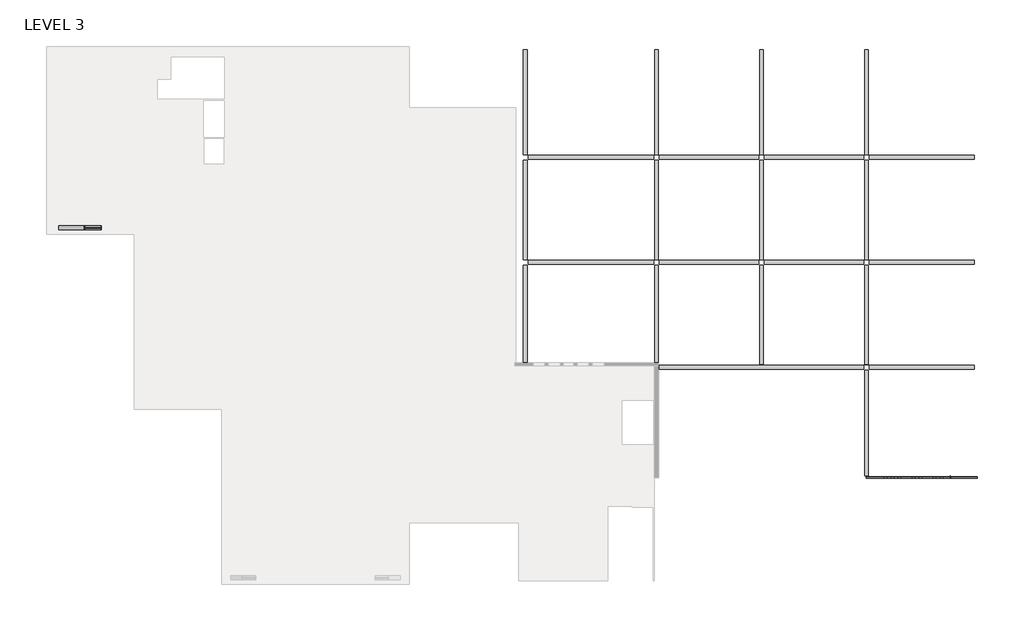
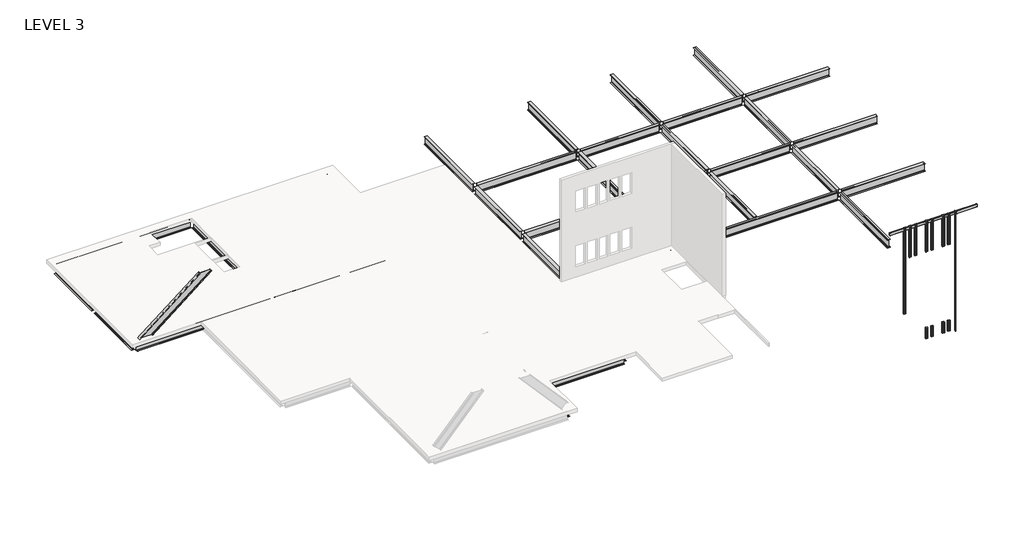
# One storey, part 2 of 2: 45 beams, 14 proxies.
"""IFC4 building model written with IfcOpenShell, lengths in millimetres."""

from ifc_helpers import new_model, si_unit, frame, origin, place, context, project, spatial, polyline, circle_curve, ellipse_curve, transform, mapped, element, save
from ifc_brep_helpers import plane_surface, revolved_surface, advanced_brep
from components import w_wide_flange_w24x68_288c4e1d, w_wide_flange_w24x68_f1038f88, w_wide_flange_w24x68_9aefc99e, w_wide_flange_w24x68_ad03e389, w_wide_flange_w24x68_3a27caef, w_wide_flange_w24x68_d201753e, w_wide_flange_w24x68_4ed4cbdf, w_wide_flange_w24x68_7e912eba, w_wide_flange_w24x68_339b7627, w_wide_flange_w24x68_f968653a, w_wide_flange_w24x68_85a517b7, w_wide_flange_w24x68_6e6fe96a, w_wide_flange_w24x68_b8d53f7a, w_wide_flange_w24x68_6622e0e6, w_wide_flange_w24x68_d4d42626, w_wide_flange_w24x68_22df418c, w_wide_flange_w24x68_4a461c08, w_wide_flange_w24x68_5163ce4e, w_wide_flange_w24x68_52fdc458, w_wide_flange_w24x68_a7e4539d, w_wide_flange_w24x68_66c816e6, generic_models_057657a4, generic_models_8a489a14, generic_models_feac69a9, generic_models_48193b46, generic_models_8dd5a6fb, expansion_joint_expansion_joint_3a477976

model = new_model("IFC4")

# Units and contexts
model_context = context("Model", 3, world=origin())
ifc_project = project(units=[si_unit("LENGTHUNIT", "METRE", prefix="MILLI")], contexts=[model_context])

# Site, building, storey
site = spatial("IfcSite", under=ifc_project)
building = spatial("IfcBuilding", under=site)
storey = spatial("IfcBuildingStorey", under=building, Name="LEVEL 3", Elevation=8534.4)

# Beams
placement = place(None, origin())
element("IfcBeam", 1, ObjectType="W-Wide Flange : W24X68", at=placement, inside=storey, context=model_context, shape_type="AdvancedBrep", body=[
    advanced_brep(
    [(-13168.8463317, 4131.6776318, 12025.2152319), (-13168.8463317, 4046.2701318, 12025.2152319), (-13183.308863, 4023.0291318, 12043.4080676), (-13219.5689837, 4023.0291318, 12089.0207201), (-13219.5689837, 4012.4881318, 12089.0207201), (-13183.308863, 4012.4881318, 12043.4080676), (-13168.8463317, 3989.2471318, 12025.2152319), (-13168.8463317, 3903.8396318, 12025.2152319), (-13159.5997953, 3903.8396318, 12013.5837468), (-13159.5997953, 4131.6776318, 12013.5837468), (-17690.1020761, 4131.6776318, 8431.0090215), (-17690.1020761, 4046.2701318, 8431.0090215), (-17727.4499005, 4023.0291318, 8431.0090215), (-13970.8493863, 4023.0291318, 12089.0207201), (-18572.3678961, 4023.0291318, 8431.0090215), (-14008.1972107, 4046.2701318, 12089.0207201), (-18609.7157205, 4046.2701318, 8431.0090215), (-14008.1972107, 4131.6776318, 12089.0207201), (-18609.7157205, 4131.6776318, 8431.0090215), (-14032.075328, 4131.6776318, 12089.0207201), (-18633.5938378, 4131.6776318, 8431.0090215), (-14032.075328, 3903.8396318, 12089.0207201), (-18633.5938378, 3903.8396318, 8431.0090215), (-14008.1972107, 3903.8396318, 12089.0207201), (-18609.7157205, 3903.8396318, 8431.0090215), (-14008.1972107, 3989.2471318, 12089.0207201), (-18609.7157205, 3989.2471318, 8431.0090215), (-13970.8493863, 4012.4881318, 12089.0207201), (-18572.3678961, 4012.4881318, 8431.0090215), (-17727.4499005, 4012.4881318, 8431.0090215), (-17690.1020761, 3989.2471318, 8431.0090215), (-17690.1020761, 3903.8396318, 8431.0090215), (-17666.2239588, 3903.8396318, 8431.0090215), (-17666.2239588, 4131.6776318, 8431.0090215)],
    [
        (0, 1),
        (1, 2, circle_curve(frame((-13183.308863, 4046.2701318, 12043.4080676), z_axis=(-0.7827905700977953, 0.0, -0.6222852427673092), x_axis=(0.0, -1.0, 0.0)), 23.241)),
        (2, 3),
        (3, 4),
        (4, 5),
        (5, 6, circle_curve(frame((-13183.308863, 3989.2471318, 12043.4080676), z_axis=(-0.7827905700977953, 0.0, -0.6222852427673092), x_axis=(0.6222852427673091, 0.0, -0.7827905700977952)), 23.241)),
        (6, 7),
        (7, 8),
        (8, 9),
        (9, 0),
        (0, 10),
        (10, 11),
        (11, 1),
        (11, 12, ellipse_curve(frame((-17727.4499005, 4046.2701318, 8431.0090215), z_axis=(0.0, 0.0, -1.0), x_axis=(-1.0, 0.0, 0.0)), 37.3478244, 23.241)),
        (12, 2),
        (13, 3),
        (12, 14),
        (14, 13),
        (15, 13, ellipse_curve(frame((-13970.8493863, 4046.2701318, 12089.0207201), z_axis=(0.0, 0.0, 1.0), x_axis=(-1.0, 0.0, 0.0)), 37.3478244, 23.241)),
        (14, 16, ellipse_curve(frame((-18572.3678961, 4046.2701318, 8431.0090215), z_axis=(0.0, 0.0, -1.0), x_axis=(-1.0, 0.0, 0.0)), 37.3478244, 23.241)),
        (16, 15),
        (17, 15),
        (16, 18),
        (18, 17),
        (19, 17),
        (18, 20),
        (20, 19),
        (21, 19),
        (20, 22),
        (22, 21),
        (23, 21),
        (22, 24),
        (24, 23),
        (25, 23),
        (24, 26),
        (26, 25),
        (27, 25, ellipse_curve(frame((-13970.8493863, 3989.2471318, 12089.0207201), z_axis=(0.0, 0.0, 1.0), x_axis=(-1.0, 0.0, 0.0)), 37.3478244, 23.241)),
        (26, 28, ellipse_curve(frame((-18572.3678961, 3989.2471318, 8431.0090215), z_axis=(0.0, 0.0, -1.0), x_axis=(-1.0, 0.0, 0.0)), 37.3478244, 23.241)),
        (28, 27),
        (4, 27),
        (28, 29),
        (29, 5),
        (29, 30, ellipse_curve(frame((-17727.4499005, 3989.2471318, 8431.0090215), z_axis=(0.0, 0.0, -1.0), x_axis=(-1.0, 0.0, 0.0)), 37.3478244, 23.241)),
        (30, 6),
        (30, 31),
        (31, 7),
        (31, 32),
        (32, 8),
        (32, 33),
        (33, 9),
        (33, 10),
    ],
    [
        plane_surface(frame((-13346.9014305, 4017.7586318, 12249.1958805), z_axis=(0.7827905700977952, 0.0, 0.6222852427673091), x_axis=(-0.6222852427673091, 0.0, 0.7827905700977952))),
        plane_surface(frame((-13168.8463317, 4088.9738818, 12025.2152319), z_axis=(-0.6222852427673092, 0.0, 0.7827905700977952), x_axis=(0.0, -1.0, 0.0))),
        revolved_surface(polyline([(-17750.335193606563, 4023.0291318, 8412.816185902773), (-13183.308863, 4023.0291318, 12043.4080676)]), (-13183.308863, 4046.2701318, 12043.4080676), (-0.7827905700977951, 0.0, -0.6222852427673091)),
        plane_surface(frame((-13346.9014305, 4023.0291318, 12249.1958805), z_axis=(0.0, 1.0000000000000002, 0.0), x_axis=(-0.6222852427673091, 0.0, 0.7827905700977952))),
        revolved_surface(polyline([(-18609.715720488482, 4046.2701318, 8431.00902148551), (-13962.426624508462, 4046.2701318, 12125.40639132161)]), (-13510.4939979, 4046.2701318, 12454.9836935), (-0.7827905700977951, 0.0, -0.6222852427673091)),
        plane_surface(frame((-13524.9565293, 4088.9738818, 12473.1765292), z_axis=(0.6222852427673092, 0.0, -0.7827905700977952), x_axis=(0.0, 1.0, 0.0))),
        plane_surface(frame((-13529.5797975, 4131.6776318, 12478.9922717), z_axis=(0.0, 1.0000000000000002, 0.0), x_axis=(-0.6222852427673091, 0.0, 0.7827905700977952))),
        plane_surface(frame((-13534.2030657, 4017.7586318, 12484.8080142), z_axis=(-0.6222852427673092, 0.0, 0.7827905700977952), x_axis=(0.0, -1.0, 0.0))),
        plane_surface(frame((-13529.5797975, 3903.8396318, 12478.9922717), z_axis=(0.0, -1.0000000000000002, 0.0), x_axis=(0.6222852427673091, 0.0, -0.7827905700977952))),
        plane_surface(frame((-13524.9565293, 3946.5433818, 12473.1765292), z_axis=(0.6222852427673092, 0.0, -0.7827905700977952), x_axis=(0.0, 1.0, 0.0))),
        revolved_surface(polyline([(-18595.253189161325, 4012.4881318, 8412.816185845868), (-13947.964093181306, 4012.4881318, 12107.213555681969)]), (-13510.4939979, 3989.2471318, 12454.9836935), (-0.7827905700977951, 0.0, -0.6222852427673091)),
        plane_surface(frame((-13346.9014305, 4012.4881318, 12249.1958805), z_axis=(0.0, -1.0000000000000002, 0.0), x_axis=(0.6222852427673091, 0.0, -0.7827905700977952))),
        revolved_surface(polyline([(-17735.872662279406, 3989.2471318, 8394.623350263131), (-13168.846331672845, 3989.2471318, 12025.215231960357)]), (-13183.308863, 3989.2471318, 12043.4080676), (-0.7827905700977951, 0.0, -0.6222852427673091)),
        plane_surface(frame((-13168.8463317, 3946.5433818, 12025.2152319), z_axis=(-0.6222852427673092, 0.0, 0.7827905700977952), x_axis=(0.0, -1.0, 0.0))),
        plane_surface(frame((-13164.2230635, 3903.8396318, 12019.3994894), z_axis=(0.0, -1.0000000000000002, 0.0), x_axis=(0.6222852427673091, 0.0, -0.7827905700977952))),
        plane_surface(frame((-13159.5997953, 4017.7586318, 12013.5837468), z_axis=(0.6222852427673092, 0.0, -0.7827905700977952), x_axis=(0.0, 1.0, 0.0))),
        plane_surface(frame((-13164.2230635, 4131.6776318, 12019.3994894), z_axis=(0.0, 1.0000000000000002, 0.0), x_axis=(-0.6222852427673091, 0.0, 0.7827905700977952))),
        plane_surface(frame((-14230.2831515, -2738.6413682, 12089.0207201), z_axis=(0.0, 0.0, 1.0), x_axis=(0.0, 1.0, 0.0))),
        plane_surface(frame((-17267.6578386, -2738.6413682, 8431.0090215), z_axis=(0.0, 0.0, -1.0), x_axis=(0.0, 1.0, 0.0))),
    ],
    [
        (0, [[1, 2, 3, 4, 5, 6, 7, 8, 9, 10]]),
        (1, [[-1, 11, 12, 13]]),
        (2, [[-2, -13, 14, 15]]),
        (3, [[16, -3, -15, 17, 18]]),
        (4, [[19, -18, 20, 21]]),
        (5, [[22, -21, 23, 24]]),
        (6, [[25, -24, 26, 27]]),
        (7, [[28, -27, 29, 30]]),
        (8, [[31, -30, 32, 33]]),
        (9, [[34, -33, 35, 36]]),
        (10, [[37, -36, 38, 39]]),
        (11, [[40, -39, 41, 42, -5]]),
        (12, [[-6, -42, 43, 44]]),
        (13, [[-7, -44, 45, 46]]),
        (14, [[-8, -46, 47, 48]]),
        (15, [[-9, -48, 49, 50]]),
        (16, [[-10, -50, 51, -11]]),
        (17, [[-16, -19, -22, -25, -28, -31, -34, -37, -40, -4]]),
        (18, [[-12, -51, -49, -47, -45, -43, -41, -38, -35, -32, -29, -26, -23, -20, -17, -14]]),
    ],
),
])
w_wide_flange_w24x68_shape = w_wide_flange_w24x68_288c4e1d(model_context)
element("IfcBeam", 2, ObjectType="W-Wide Flange : W24X68", at=placement, inside=storey, context=model_context, shape_type="MappedRepresentation", body=[
    mapped(w_wide_flange_w24x68_shape, transform((-18823.0492735, 11637.7586318, 7979.41), x_axis=(0.0, -1.0, 0.0), y_axis=(1.0, 0.0, 0.0), z_axis=(0.0, 0.0, 1.0))),
])
w_wide_flange_w24x68_2_shape = w_wide_flange_w24x68_f1038f88(model_context)
element("IfcBeam", 3, ObjectType="W-Wide Flange : W24X68", at=placement, inside=storey, context=model_context, shape_type="MappedRepresentation", body=[
    mapped(w_wide_flange_w24x68_2_shape, transform((-13743.0492735, 14177.7586318, 7979.41), x_axis=(1.0, 0.0, 0.0), y_axis=(0.0, 1.0, 0.0), z_axis=(0.0, 0.0, 1.0))),
])
element("IfcBeam", 4, ObjectType="W-Wide Flange : W24X68", at=placement, inside=storey, context=model_context, shape_type="MappedRepresentation", body=[
    mapped(w_wide_flange_w24x68_2_shape, transform((-3583.0492735, 14177.7586318, 7979.41), x_axis=(-1.0, 0.0, 0.0), y_axis=(0.0, -1.0, 0.0), z_axis=(0.0, 0.0, 1.0))),
])
element("IfcBeam", 5, ObjectType="W-Wide Flange : W24X68", at=placement, inside=storey, context=model_context, shape_type="MappedRepresentation", body=[
    mapped(w_wide_flange_w24x68_2_shape, transform((-13743.0492735, 4017.7586318, 7979.41), x_axis=(1.0, 0.0, 0.0), y_axis=(0.0, 1.0, 0.0), z_axis=(0.0, 0.0, 1.0))),
])
element("IfcBeam", 6, ObjectType="W-Wide Flange : W24X68", at=placement, inside=storey, context=model_context, shape_type="MappedRepresentation", body=[
    mapped(w_wide_flange_w24x68_2_shape, transform((-3583.0492735, 4017.7586318, 7979.41), x_axis=(1.0, 0.0, 0.0), y_axis=(0.0, 1.0, 0.0), z_axis=(0.0, 0.0, 1.0))),
])
w_wide_flange_w24x68_3_shape = w_wide_flange_w24x68_9aefc99e(model_context)
element("IfcBeam", 7, ObjectType="W-Wide Flange : W24X68", at=placement, inside=storey, context=model_context, shape_type="MappedRepresentation", body=[
    mapped(w_wide_flange_w24x68_3_shape, transform((-18823.0492735, 6557.7586318, 7979.41), x_axis=(0.0, 1.0, 0.0), y_axis=(-1.0, 0.0, 0.0), z_axis=(0.0, 0.0, 1.0))),
])
w_wide_flange_w24x68_4_shape = w_wide_flange_w24x68_ad03e389(model_context)
element("IfcBeam", 8, ObjectType="W-Wide Flange : W24X68", at=placement, inside=storey, context=model_context, shape_type="MappedRepresentation", body=[
    mapped(w_wide_flange_w24x68_4_shape, transform((-8663.0492735, 9097.7586318, 7979.41), x_axis=(0.0, 1.0, 0.0), y_axis=(-1.0, 0.0, 0.0), z_axis=(0.0, 0.0, 1.0))),
])
w_wide_flange_w24x68_5_shape = w_wide_flange_w24x68_3a27caef(model_context)
element("IfcBeam", 9, ObjectType="W-Wide Flange : W24X68", at=placement, inside=storey, context=model_context, shape_type="MappedRepresentation", body=[
    mapped(w_wide_flange_w24x68_5_shape, transform((1496.9507265, -14524.2413682, 7979.41), x_axis=(0.0, 1.0, 0.0), y_axis=(-1.0, 0.0, 0.0), z_axis=(0.0, 0.0, 1.0))),
])
element("IfcBeam", 10, ObjectType="W-Wide Flange : W24X68", at=placement, inside=storey, context=model_context, shape_type="MappedRepresentation", body=[
    mapped(w_wide_flange_w24x68_5_shape, transform((1496.9507265, 12399.7586318, 7979.41), x_axis=(0.0, -1.0, 0.0), y_axis=(1.0, 0.0, 0.0), z_axis=(0.0, 0.0, 1.0))),
])
w_wide_flange_w24x68_6_shape = w_wide_flange_w24x68_d201753e(model_context)
element("IfcBeam", 11, ObjectType="W-Wide Flange : W24X68", at=placement, inside=storey, context=model_context, shape_type="MappedRepresentation", body=[
    mapped(w_wide_flange_w24x68_6_shape, transform((4595.7507265, -12746.2413682, 7979.41), x_axis=(-1.0, 0.0, 0.0), y_axis=(0.0, -1.0, 0.0), z_axis=(0.0, 0.0, 1.0))),
])
element("IfcBeam", 12, ObjectType="W-Wide Flange : W24X68", at=placement, inside=storey, context=model_context, shape_type="MappedRepresentation", body=[
    mapped(w_wide_flange_w24x68_6_shape, transform((4595.7507265, 10621.7586318, 7979.41), x_axis=(1.0, 0.0, 0.0), y_axis=(0.0, 1.0, 0.0), z_axis=(0.0, 0.0, 1.0))),
])
w_wide_flange_w24x68_7_shape = w_wide_flange_w24x68_4ed4cbdf(model_context)
element("IfcBeam", 13, ObjectType="W-Wide Flange : W24X68", at=placement, inside=storey, context=model_context, shape_type="MappedRepresentation", body=[
    mapped(w_wide_flange_w24x68_7_shape, transform((7694.5507265, -9444.2413682, 7979.41), x_axis=(0.0, -1.0, 0.0), y_axis=(1.0, 0.0, 0.0), z_axis=(0.0, 0.0, 1.0))),
])
element("IfcBeam", 14, ObjectType="W-Wide Flange : W24X68", at=placement, inside=storey, context=model_context, shape_type="MappedRepresentation", body=[
    mapped(w_wide_flange_w24x68_7_shape, transform((1496.9507265, 7319.7586318, 7979.41), x_axis=(0.0, 1.0, 0.0), y_axis=(-1.0, 0.0, 0.0), z_axis=(0.0, 0.0, 1.0))),
])
w_wide_flange_w24x68_8_shape = w_wide_flange_w24x68_7e912eba(model_context)
element("IfcBeam", 15, ObjectType="W-Wide Flange : W24X68", at=placement, inside=storey, context=model_context, shape_type="MappedRepresentation", body=[
    mapped(w_wide_flange_w24x68_8_shape, transform((11885.5507265, -4083.2538682, 7979.41), x_axis=(-1.0, 0.0, 0.0), y_axis=(0.0, -1.0, 0.0), z_axis=(0.0, 0.0, 1.0))),
])
element("IfcBeam", 16, ObjectType="W-Wide Flange : W24X68", at=placement, inside=storey, context=model_context, shape_type="MappedRepresentation", body=[
    mapped(w_wide_flange_w24x68_6_shape, transform((4595.7507265, -6142.2413682, 7979.41), x_axis=(1.0, 0.0, 0.0), y_axis=(0.0, 1.0, 0.0), z_axis=(0.0, 0.0, 1.0))),
])
w_wide_flange_w24x68_9_shape = w_wide_flange_w24x68_339b7627(model_context)
element("IfcBeam", 17, ObjectType="W-Wide Flange : W24X68", at=placement, inside=storey, context=model_context, shape_type="MappedRepresentation", body=[
    mapped(w_wide_flange_w24x68_9_shape, transform((4613.3908052, 4017.7586318, 7979.41), x_axis=(-1.0, 0.0, 0.0), y_axis=(0.0, -1.0, 0.0), z_axis=(0.0, 0.0, 1.0))),
])
w_wide_flange_w24x68_10_shape = w_wide_flange_w24x68_f968653a(model_context)
element("IfcBeam", 18, ObjectType="W-Wide Flange : W24X68", at=placement, inside=storey, context=model_context, shape_type="MappedRepresentation", body=[
    mapped(w_wide_flange_w24x68_10_shape, transform((7694.5507265, -1064.4380093, 7979.41), x_axis=(0.0, 1.0, 0.0), y_axis=(-1.0, 0.0, 0.0), z_axis=(0.0, 0.0, 1.0))),
])
w_wide_flange_w24x68_11_shape = w_wide_flange_w24x68_85a517b7(model_context)
element("IfcBeam", 19, ObjectType="W-Wide Flange : W24X68", at=placement, inside=storey, context=model_context, shape_type="MappedRepresentation", body=[
    mapped(w_wide_flange_w24x68_11_shape, transform((1496.9507265, -1067.0038682, 7979.41), x_axis=(0.0, 1.0, 0.0), y_axis=(-1.0, 0.0, 0.0), z_axis=(0.0, 0.0, 1.0))),
])
w_wide_flange_w24x68_12_shape = w_wide_flange_w24x68_6e6fe96a(model_context)
element("IfcBeam", 20, ObjectType="W-Wide Flange : W24X68", at=placement, inside=storey, context=model_context, shape_type="MappedRepresentation", body=[
    mapped(w_wide_flange_w24x68_12_shape, transform((7694.5507265, 7317.5619907, 7979.41), x_axis=(0.0, 1.0, 0.0), y_axis=(-1.0, 0.0, 0.0), z_axis=(0.0, 0.0, 1.0))),
])
w_wide_flange_w24x68_13_shape = w_wide_flange_w24x68_b8d53f7a(model_context)
element("IfcBeam", 21, ObjectType="W-Wide Flange : W24X68", at=placement, inside=storey, context=model_context, shape_type="MappedRepresentation", body=[
    mapped(w_wide_flange_w24x68_13_shape, transform((1496.9507265, -9449.0038682, 7979.41), x_axis=(0.0, 1.0, 0.0), y_axis=(-1.0, 0.0, 0.0), z_axis=(0.0, 0.0, 1.0))),
])
w_wide_flange_w24x68_14_shape = w_wide_flange_w24x68_6622e0e6(model_context)
element("IfcBeam", 22, ObjectType="W-Wide Flange : W24X68", at=placement, inside=storey, context=model_context, shape_type="MappedRepresentation", body=[
    mapped(w_wide_flange_w24x68_14_shape, transform((8608.9507265, -7138.3976182, 7979.41), x_axis=(0.0, 1.0, 0.0), y_axis=(-1.0, 0.0, 0.0), z_axis=(0.0, 0.0, 1.0))),
])
w_wide_flange_w24x68_15_shape = w_wide_flange_w24x68_d4d42626(model_context)
element("IfcBeam", 23, ObjectType="W-Wide Flange : W24X68", at=placement, inside=storey, context=model_context, shape_type="MappedRepresentation", body=[
    mapped(w_wide_flange_w24x68_15_shape, transform((22324.9507265, -4083.2538682, 8233.41), x_axis=(1.0, 0.0, 0.0), y_axis=(0.0, 1.0, 0.0), z_axis=(0.0, 0.0, 1.0))),
])
w_wide_flange_w24x68_16_shape = w_wide_flange_w24x68_22df418c(model_context)
element("IfcBeam", 24, ObjectType="W-Wide Flange : W24X68", at=placement, inside=storey, context=model_context, shape_type="MappedRepresentation", body=[
    mapped(w_wide_flange_w24x68_16_shape, transform((8608.9507265, -1035.2538682, 8233.41), x_axis=(0.0, -1.0, 0.0), y_axis=(1.0, 0.0, 0.0), z_axis=(0.0, 0.0, 1.0))),
])
element("IfcBeam", 25, ObjectType="W-Wide Flange : W24X68", at=placement, inside=storey, context=model_context, shape_type="MappedRepresentation", body=[
    mapped(w_wide_flange_w24x68_16_shape, transform((8608.9507265, 5060.7461318, 8233.41), x_axis=(0.0, -1.0, 0.0), y_axis=(1.0, 0.0, 0.0), z_axis=(0.0, 0.0, 1.0))),
])
element("IfcBeam", 26, ObjectType="W-Wide Flange : W24X68", at=placement, inside=storey, context=model_context, shape_type="MappedRepresentation", body=[
    mapped(w_wide_flange_w24x68_16_shape, transform((16228.9507265, 5060.7461318, 8233.41), x_axis=(0.0, -1.0, 0.0), y_axis=(1.0, 0.0, 0.0), z_axis=(0.0, 0.0, 1.0))),
])
element("IfcBeam", 27, ObjectType="W-Wide Flange : W24X68", at=placement, inside=storey, context=model_context, shape_type="MappedRepresentation", body=[
    mapped(w_wide_flange_w24x68_16_shape, transform((16228.9507265, -1035.2538682, 8233.41), x_axis=(0.0, -1.0, 0.0), y_axis=(1.0, 0.0, 0.0), z_axis=(0.0, 0.0, 1.0))),
])
element("IfcBeam", 28, ObjectType="W-Wide Flange : W24X68", at=placement, inside=storey, context=model_context, shape_type="MappedRepresentation", body=[
    mapped(w_wide_flange_w24x68_16_shape, transform((22324.9507265, 5060.7461318, 8233.41), x_axis=(0.0, -1.0, 0.0), y_axis=(1.0, 0.0, 0.0), z_axis=(0.0, 0.0, 1.0))),
])
element("IfcBeam", 29, ObjectType="W-Wide Flange : W24X68", at=placement, inside=storey, context=model_context, shape_type="MappedRepresentation", body=[
    mapped(w_wide_flange_w24x68_16_shape, transform((22324.9507265, -1035.2538682, 8233.41), x_axis=(0.0, -1.0, 0.0), y_axis=(1.0, 0.0, 0.0), z_axis=(0.0, 0.0, 1.0))),
])
element("IfcBeam", 30, ObjectType="W-Wide Flange : W24X68", at=placement, inside=storey, context=model_context, shape_type="MappedRepresentation", body=[
    mapped(w_wide_flange_w24x68_16_shape, transform((28420.9507265, 5060.7461318, 8233.41), x_axis=(0.0, 1.0, 0.0), y_axis=(-1.0, 0.0, 0.0), z_axis=(0.0, 0.0, 1.0))),
])
element("IfcBeam", 31, ObjectType="W-Wide Flange : W24X68", at=placement, inside=storey, context=model_context, shape_type="MappedRepresentation", body=[
    mapped(w_wide_flange_w24x68_16_shape, transform((28420.9507265, -1035.2538682, 8233.41), x_axis=(0.0, -1.0, 0.0), y_axis=(1.0, 0.0, 0.0), z_axis=(0.0, 0.0, 1.0))),
])
w_wide_flange_w24x68_17_shape = w_wide_flange_w24x68_4a461c08(model_context)
element("IfcBeam", 32, ObjectType="W-Wide Flange : W24X68", at=placement, inside=storey, context=model_context, shape_type="MappedRepresentation", body=[
    mapped(w_wide_flange_w24x68_17_shape, transform((12418.9507265, 8108.7461318, 8233.41), x_axis=(1.0, 0.0, 0.0), y_axis=(0.0, 1.0, 0.0), z_axis=(0.0, 0.0, 1.0))),
])
element("IfcBeam", 33, ObjectType="W-Wide Flange : W24X68", at=placement, inside=storey, context=model_context, shape_type="MappedRepresentation", body=[
    mapped(w_wide_flange_w24x68_17_shape, transform((12418.9507265, 2012.7461318, 8233.41), x_axis=(1.0, 0.0, 0.0), y_axis=(0.0, 1.0, 0.0), z_axis=(0.0, 0.0, 1.0))),
])
w_wide_flange_w24x68_18_shape = w_wide_flange_w24x68_5163ce4e(model_context)
element("IfcBeam", 34, ObjectType="W-Wide Flange : W24X68", at=placement, inside=storey, context=model_context, shape_type="MappedRepresentation", body=[
    mapped(w_wide_flange_w24x68_18_shape, transform((19276.9507265, 8108.7461318, 8233.41), x_axis=(-1.0, 0.0, 0.0), y_axis=(0.0, -1.0, 0.0), z_axis=(0.0, 0.0, 1.0))),
])
element("IfcBeam", 35, ObjectType="W-Wide Flange : W24X68", at=placement, inside=storey, context=model_context, shape_type="MappedRepresentation", body=[
    mapped(w_wide_flange_w24x68_18_shape, transform((25372.9507265, 8108.7461318, 8233.41), x_axis=(-1.0, 0.0, 0.0), y_axis=(0.0, -1.0, 0.0), z_axis=(0.0, 0.0, 1.0))),
])
element("IfcBeam", 36, ObjectType="W-Wide Flange : W24X68", at=placement, inside=storey, context=model_context, shape_type="MappedRepresentation", body=[
    mapped(w_wide_flange_w24x68_18_shape, transform((19276.9507265, 2012.7461318, 8233.41), x_axis=(-1.0, 0.0, 0.0), y_axis=(0.0, -1.0, 0.0), z_axis=(0.0, 0.0, 1.0))),
])
element("IfcBeam", 37, ObjectType="W-Wide Flange : W24X68", at=placement, inside=storey, context=model_context, shape_type="MappedRepresentation", body=[
    mapped(w_wide_flange_w24x68_18_shape, transform((25372.9507265, 2012.7461318, 8233.41), x_axis=(-1.0, 0.0, 0.0), y_axis=(0.0, -1.0, 0.0), z_axis=(0.0, 0.0, 1.0))),
])
w_wide_flange_w24x68_19_shape = w_wide_flange_w24x68_52fdc458(model_context)
element("IfcBeam", 38, ObjectType="W-Wide Flange : W24X68", at=placement, inside=storey, context=model_context, shape_type="MappedRepresentation", body=[
    mapped(w_wide_flange_w24x68_19_shape, transform((31604.7837939, -4083.2538682, 8233.41), x_axis=(-1.0, 0.0, 0.0), y_axis=(0.0, -1.0, 0.0), z_axis=(0.0, 0.0, 1.0))),
])
element("IfcBeam", 39, ObjectType="W-Wide Flange : W24X68", at=placement, inside=storey, context=model_context, shape_type="MappedRepresentation", body=[
    mapped(w_wide_flange_w24x68_19_shape, transform((31604.7837939, 8108.7461318, 8233.41), x_axis=(-1.0, 0.0, 0.0), y_axis=(0.0, -1.0, 0.0), z_axis=(0.0, 0.0, 1.0))),
])
element("IfcBeam", 40, ObjectType="W-Wide Flange : W24X68", at=placement, inside=storey, context=model_context, shape_type="MappedRepresentation", body=[
    mapped(w_wide_flange_w24x68_19_shape, transform((31604.7837939, 2012.7461318, 8233.41), x_axis=(-1.0, 0.0, 0.0), y_axis=(0.0, -1.0, 0.0), z_axis=(0.0, 0.0, 1.0))),
])
w_wide_flange_w24x68_20_shape = w_wide_flange_w24x68_a7e4539d(model_context)
element("IfcBeam", 41, ObjectType="W-Wide Flange : W24X68", at=placement, inside=storey, context=model_context, shape_type="MappedRepresentation", body=[
    mapped(w_wide_flange_w24x68_20_shape, transform((28420.9507265, -7280.4788682, 8233.41), x_axis=(0.0, 1.0, 0.0), y_axis=(-1.0, 0.0, 0.0), z_axis=(0.0, 0.0, 1.0))),
])
w_wide_flange_w24x68_21_shape = w_wide_flange_w24x68_66c816e6(model_context)
element("IfcBeam", 42, ObjectType="W-Wide Flange : W24X68", at=placement, inside=storey, context=model_context, shape_type="MappedRepresentation", body=[
    mapped(w_wide_flange_w24x68_21_shape, transform((8608.9507265, 11293.2711318, 8233.41), x_axis=(0.0, -1.0, 0.0), y_axis=(1.0, 0.0, 0.0), z_axis=(0.0, 0.0, 1.0))),
])
element("IfcBeam", 43, ObjectType="W-Wide Flange : W24X68", at=placement, inside=storey, context=model_context, shape_type="MappedRepresentation", body=[
    mapped(w_wide_flange_w24x68_21_shape, transform((16228.9507265, 11293.2711318, 8233.41), x_axis=(0.0, -1.0, 0.0), y_axis=(1.0, 0.0, 0.0), z_axis=(0.0, 0.0, 1.0))),
])
element("IfcBeam", 44, ObjectType="W-Wide Flange : W24X68", at=placement, inside=storey, context=model_context, shape_type="MappedRepresentation", body=[
    mapped(w_wide_flange_w24x68_21_shape, transform((22324.9507265, 11293.2711318, 8233.41), x_axis=(0.0, -1.0, 0.0), y_axis=(1.0, 0.0, 0.0), z_axis=(0.0, 0.0, 1.0))),
])
element("IfcBeam", 45, ObjectType="W-Wide Flange : W24X68", at=placement, inside=storey, context=model_context, shape_type="MappedRepresentation", body=[
    mapped(w_wide_flange_w24x68_21_shape, transform((28420.9507265, 11293.2711318, 8233.41), x_axis=(0.0, -1.0, 0.0), y_axis=(1.0, 0.0, 0.0), z_axis=(0.0, 0.0, 1.0))),
])

# Proxies
generic_models_shape = generic_models_057657a4(model_context)
element("IfcBuildingElementProxy", 46, Name="GROUTED CMU CELLS : GROUTED CMU CELLS", ObjectType="GROUTED CMU CELLS : GROUTED CMU CELLS", at=placement, inside=storey, context=model_context, shape_type="MappedRepresentation", body=[
    mapped(generic_models_shape, transform((31148.2757265, -10477.7038682, 0.0), x_axis=(1.0, 0.0, 0.0), y_axis=(0.0, 1.0, 0.0), z_axis=(0.0, 0.0, 1.0))),
])
element("IfcBuildingElementProxy", 47, Name="GROUTED CMU CELLS : GROUTED CMU CELLS", ObjectType="GROUTED CMU CELLS : GROUTED CMU CELLS", at=placement, inside=storey, context=model_context, shape_type="MappedRepresentation", body=[
    mapped(generic_models_shape, transform((31554.6757265, -10477.7038682, 0.0), x_axis=(1.0, 0.0, 0.0), y_axis=(0.0, 1.0, 0.0), z_axis=(0.0, 0.0, 1.0))),
])
element("IfcBuildingElementProxy", 48, Name="GROUTED CMU CELLS : GROUTED CMU CELLS", ObjectType="GROUTED CMU CELLS : GROUTED CMU CELLS", at=placement, inside=storey, context=model_context, shape_type="MappedRepresentation", body=[
    mapped(generic_models_shape, transform((32367.4757265, -10477.7038682, 0.0), x_axis=(1.0, 0.0, 0.0), y_axis=(0.0, 1.0, 0.0), z_axis=(0.0, 0.0, 1.0))),
])
element("IfcBuildingElementProxy", 49, Name="GROUTED CMU CELLS : GROUTED CMU CELLS", ObjectType="GROUTED CMU CELLS : GROUTED CMU CELLS", at=placement, inside=storey, context=model_context, shape_type="MappedRepresentation", body=[
    mapped(generic_models_shape, transform((32773.8757265, -10477.7038682, 0.0), x_axis=(1.0, 0.0, 0.0), y_axis=(0.0, 1.0, 0.0), z_axis=(0.0, 0.0, 1.0))),
])
generic_models_2_shape = generic_models_8a489a14(model_context)
element("IfcBuildingElementProxy", 50, Name="GROUTED CMU CELLS_horizontal : GROUTED CMU CELLS_horizontal", ObjectType="GROUTED CMU CELLS_horizontal : GROUTED CMU CELLS_horizontal", at=placement, inside=storey, context=model_context, shape_type="MappedRepresentation", body=[
    mapped(generic_models_2_shape, transform((33272.3507265, -10477.7038682, 9042.4), x_axis=(-1.0, 0.0, 0.0), y_axis=(0.0, -1.0, 0.0), z_axis=(0.0, 0.0, 1.0))),
])
generic_models_3_shape = generic_models_feac69a9(model_context)
element("IfcBuildingElementProxy", 51, Name="GROUTED CMU CELLS_horizontal : GROUTED CMU CELLS_horizontal", ObjectType="GROUTED CMU CELLS_horizontal : GROUTED CMU CELLS_horizontal", at=placement, inside=storey, context=model_context, shape_type="MappedRepresentation", body=[
    mapped(generic_models_3_shape, transform((34864.8168613, -10477.7038682, 9042.4), x_axis=(-1.0, 0.0, 0.0), y_axis=(0.0, -1.0, 0.0), z_axis=(0.0, 0.0, 1.0))),
])
generic_models_4_shape = generic_models_48193b46(model_context)
element("IfcBuildingElementProxy", 52, Name="GROUTED CMU CELLS : GROUTED CMU CELLS", ObjectType="GROUTED CMU CELLS : GROUTED CMU CELLS", at=placement, inside=storey, context=model_context, shape_type="MappedRepresentation", body=[
    mapped(generic_models_4_shape, transform((29929.0757265, -10477.7038682, 6743.7), x_axis=(1.0, 0.0, 0.0), y_axis=(0.0, 1.0, 0.0), z_axis=(0.0, 0.0, 1.0))),
])
element("IfcBuildingElementProxy", 53, Name="GROUTED CMU CELLS : GROUTED CMU CELLS", ObjectType="GROUTED CMU CELLS : GROUTED CMU CELLS", at=placement, inside=storey, context=model_context, shape_type="MappedRepresentation", body=[
    mapped(generic_models_4_shape, transform((30335.4757265, -10477.7038682, 6743.7), x_axis=(1.0, 0.0, 0.0), y_axis=(0.0, 1.0, 0.0), z_axis=(0.0, 0.0, 1.0))),
])
element("IfcBuildingElementProxy", 54, Name="GROUTED CMU CELLS : GROUTED CMU CELLS", ObjectType="GROUTED CMU CELLS : GROUTED CMU CELLS", at=placement, inside=storey, context=model_context, shape_type="MappedRepresentation", body=[
    mapped(generic_models_4_shape, transform((31148.2757265, -10477.7038682, 6743.7), x_axis=(1.0, 0.0, 0.0), y_axis=(0.0, 1.0, 0.0), z_axis=(0.0, 0.0, 1.0))),
])
element("IfcBuildingElementProxy", 55, Name="GROUTED CMU CELLS : GROUTED CMU CELLS", ObjectType="GROUTED CMU CELLS : GROUTED CMU CELLS", at=placement, inside=storey, context=model_context, shape_type="MappedRepresentation", body=[
    mapped(generic_models_4_shape, transform((31554.6757265, -10477.7038682, 6743.7), x_axis=(1.0, 0.0, 0.0), y_axis=(0.0, 1.0, 0.0), z_axis=(0.0, 0.0, 1.0))),
])
element("IfcBuildingElementProxy", 56, Name="GROUTED CMU CELLS : GROUTED CMU CELLS", ObjectType="GROUTED CMU CELLS : GROUTED CMU CELLS", at=placement, inside=storey, context=model_context, shape_type="MappedRepresentation", body=[
    mapped(generic_models_4_shape, transform((32367.4757265, -10477.7038682, 6743.7), x_axis=(1.0, 0.0, 0.0), y_axis=(0.0, 1.0, 0.0), z_axis=(0.0, 0.0, 1.0))),
])
element("IfcBuildingElementProxy", 57, Name="GROUTED CMU CELLS : GROUTED CMU CELLS", ObjectType="GROUTED CMU CELLS : GROUTED CMU CELLS", at=placement, inside=storey, context=model_context, shape_type="MappedRepresentation", body=[
    mapped(generic_models_4_shape, transform((32773.8757265, -10477.7038682, 6743.7), x_axis=(1.0, 0.0, 0.0), y_axis=(0.0, 1.0, 0.0), z_axis=(0.0, 0.0, 1.0))),
])
generic_models_5_shape = generic_models_8dd5a6fb(model_context)
element("IfcBuildingElementProxy", 58, Name="GROUTED CMU CELLS : GROUTED CMU CELLS", ObjectType="GROUTED CMU CELLS : GROUTED CMU CELLS", at=placement, inside=storey, context=model_context, shape_type="MappedRepresentation", body=[
    mapped(generic_models_5_shape, transform((29522.6757265, -10477.7038682, 2476.5), x_axis=(1.0, 0.0, 0.0), y_axis=(0.0, 1.0, 0.0), z_axis=(0.0, 0.0, 1.0))),
])
expansion_joint_expansion_joint_shape = expansion_joint_expansion_joint_3a477976(model_context)
element("IfcBuildingElementProxy", 59, Name="expansion joint : expansion joint", ObjectType="expansion joint : expansion joint", at=placement, inside=storey, context=model_context, shape_type="MappedRepresentation", body=[
    mapped(expansion_joint_expansion_joint_shape, transform((33286.6382265, -10477.7038682, -203.2), x_axis=(1.0, 0.0, 0.0), y_axis=(0.0, 1.0, 0.0), z_axis=(0.0, 0.0, 1.0))),
])

save(model, "model.ifc")
